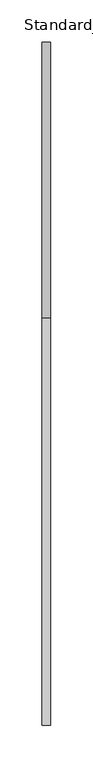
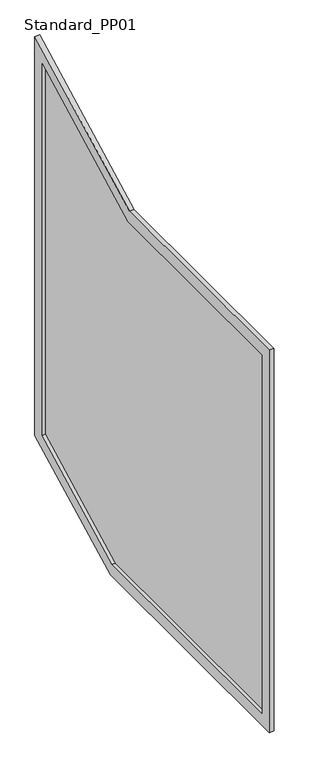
"""IFC4 building model written with IfcOpenShell, lengths in millimetres: railing geometry, Baluster-Landing-Panel-VIVA-STRUC-Upper : Standard_PP01."""

from ifc_helpers import new_model, si_unit, frame, origin, place, context, project, spatial, polyline, outline, extrude, source, transform, mapped, element, save


def standard_pp01_bbce697f(model_context):
    return source(origin(), model_context, "Body", "SweptSolid", [
        extrude(outline(polyline([(206.7060559, 161.8753782), (206.7060559, 911.0218), (666.564764, 911.0218), (959.3372584, 1063.4295139), (959.3372584, 286.6557267), (719.6364392, 161.8753782), (206.7060559, 161.8753782)])), frame((62.2681, 0.0, 0.0), z_axis=(1.0, 0.0, 0.0), x_axis=(0.0, 1.0, 0.0)), (0.0, 0.0, 1.0), 2.9972),
        extrude(outline(polyline([(984.7372584, 271.2426283), (725.8517797, 136.4753782), (181.3060559, 136.4753782), (181.3060559, 936.4218), (660.3494236, 936.4218), (984.7372584, 1105.2874184), (984.7372584, 271.2426283)]), holes=[polyline([(206.7060559, 911.0218), (206.7060559, 161.8753782), (719.6364392, 161.8753782), (959.3372584, 286.6557267), (959.3372584, 1063.4295139), (666.564764, 911.0218), (206.7060559, 911.0218)])]), frame((55.7403, 0.0, 0.0), z_axis=(1.0, 0.0, 0.0), x_axis=(0.0, 1.0, 0.0)), (0.0, 0.0, 1.0), 9.525),
    ])


if __name__ == "__main__":
    model = new_model("IFC4")
    model_context = context("Model", 3, world=origin())
    ifc_project = project(units=[si_unit("LENGTHUNIT", "METRE", prefix="MILLI")], contexts=[model_context])
    site = spatial("IfcSite", under=ifc_project)
    building = spatial("IfcBuilding", under=site)
    placement = place(None, origin())
    standard_pp01_shape = standard_pp01_bbce697f(model_context)
    element("IfcRailing", 1, ObjectType="Baluster-Landing-Panel-VIVA-STRUC-Upper : Standard_PP01", at=placement, inside=building, context=model_context, shape_type="MappedRepresentation", body=[
        mapped(standard_pp01_shape, transform((0.0, 0.0, 0.0), x_axis=(1.0, 0.0, 0.0), y_axis=(0.0, 1.0, 0.0), z_axis=(0.0, 0.0, 1.0))),
    ])
    save(model, "model.ifc")
